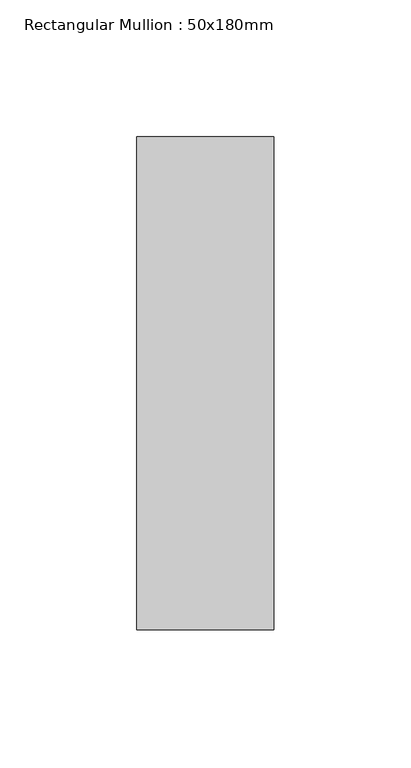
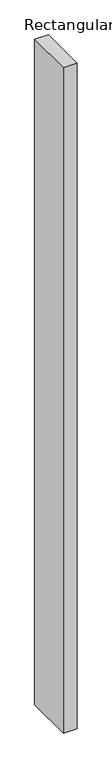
"""IFC4 building model written with IfcOpenShell, lengths in millimetres: member geometry, Rectangular Mullion : 50x180mm."""

from ifc_helpers import new_model, si_unit, frame, origin, place, context, project, spatial, polyline, outline, extrude, source, transform, mapped, element, save


def rectangular_mullion_50x180mm_dd877401(model_context):
    return source(origin(), model_context, "Body", "SweptSolid", [
        extrude(outline(polyline([(0.0, 90.0), (0.0, -90.0), (-50.0, -90.0), (-50.0, 90.0), (0.0, 90.0)])), frame((0.0, 0.0, -2550.0), z_axis=(0.0, 0.0, 1.0), x_axis=(1.0, 0.0, 0.0)), (0.0, 0.0, 1.0), 2550.0),
    ])


if __name__ == "__main__":
    model = new_model("IFC4")
    model_context = context("Model", 3, world=origin())
    ifc_project = project(units=[si_unit("LENGTHUNIT", "METRE", prefix="MILLI")], contexts=[model_context])
    site = spatial("IfcSite", under=ifc_project)
    building = spatial("IfcBuilding", under=site)
    placement = place(None, origin())
    rectangular_mullion_50x180mm_shape = rectangular_mullion_50x180mm_dd877401(model_context)
    element("IfcMember", 1, ObjectType="Rectangular Mullion : 50x180mm", at=placement, inside=building, context=model_context, shape_type="MappedRepresentation", body=[
        mapped(rectangular_mullion_50x180mm_shape, transform((0.0, 0.0, 0.0), x_axis=(1.0, 0.0, 0.0), y_axis=(0.0, 1.0, 0.0), z_axis=(0.0, 0.0, 1.0))),
    ])
    save(model, "model.ifc")
